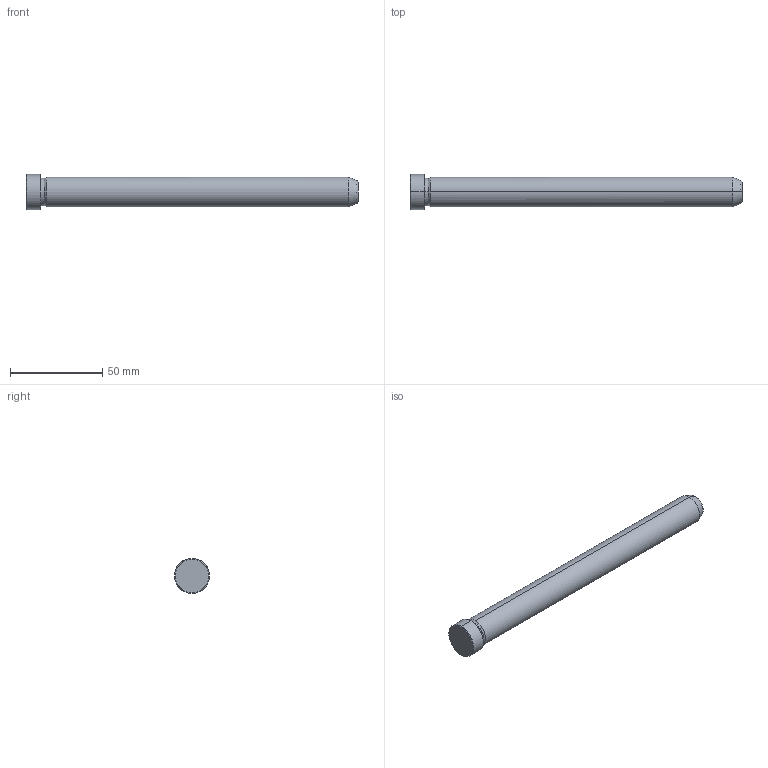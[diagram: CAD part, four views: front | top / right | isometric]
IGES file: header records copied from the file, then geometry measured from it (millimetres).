
Start section: START RECORD GO HERE.
Global section: file name: 549-16X180.igs; native system: DASSAULT SYSTEMES CATIA V5 R20 - www.3ds.com; preprocessor: CATIA Version 5 Release 20 ; author: Utente; organization: NB04-ASUS; date: 20211211.103043; units: millimetre
Bounding box: 180 x 19 x 19 mm (x, y, z)
Surface area: 9582.7 mm2 (no closed solid volume)
Topology: 0 solids, 0 shells, 19 faces, 112 edges, 112 vertices
Faces by surface type: revolution 16, plane 3
